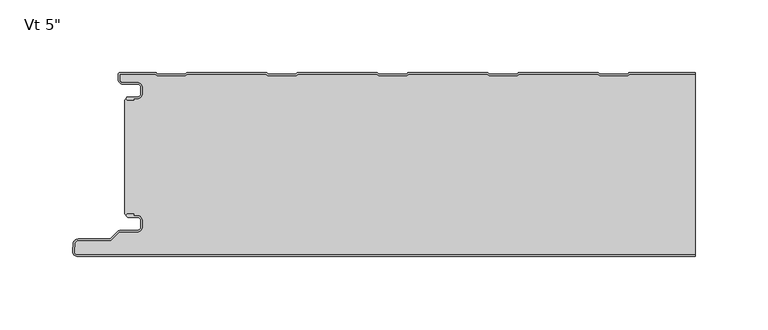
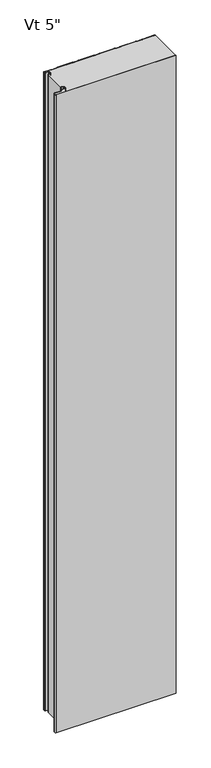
"""IFC4 building model written with IfcOpenShell, lengths in millimetres: plate geometry."""

from ifc_helpers import new_model, si_unit, point, frame, frame_2d, origin, origin_with_axes, place, context, project, spatial, polyline, circle_curve, trimmed, segment, composite_curve, outline, extrude, source, transform, mapped, element, save
from ifc_brep_helpers import plane_surface, cylinder_surface, revolved_surface, advanced_brep


def plate_491611d7(model_context):
    return source(origin(), model_context, "Body", "SolidModel", [
        advanced_brep(
        [(-194.568691, -17.0015405, 2400.0), (-195.5686883, -18.0015437, 2400.0), (-194.568691, -19.0015351, 2400.0), (-190.5684874, -19.0015351, 2400.0), (-190.5684874, -18.0015405, 2400.0), (-187.8762776, -18.0015405, 2400.0), (-184.5762819, -14.7015449, 2400.0), (-184.5762819, -10.3015536, 2400.0), (-187.8762774, -7.0015581, 2400.0), (-198.2962563, -7.0015581, 2400.0), (-200.0662505, -5.2315639, 2400.0), (-200.0662505, -1.0000163, 2400.0), (-175.5659738, -1.0000163, 2400.0), (-174.1803312, -2.2002553, 2400.0), (-154.8051649, -2.2002553, 2400.0), (-153.419532, -1.0000246, 2400.0), (-99.3661166, -1.0000246, 2400.0), (-97.9804836, -2.2002553, 2400.0), (-78.6053173, -2.2002553, 2400.0), (-77.2196844, -1.0000246, 2400.0), (-23.166269, -1.0000246, 2400.0), (-21.780636, -2.2002553, 2400.0), (-2.4054697, -2.2002553, 2400.0), (-1.0198368, -1.0000246, 2400.0), (53.0335786, -1.0000246, 2400.0), (54.4192116, -2.2002553, 2400.0), (73.7943779, -2.2002553, 2400.0), (75.1800108, -1.0000246, 2400.0), (129.2334262, -1.0000246, 2400.0), (130.6190592, -2.2002553, 2400.0), (149.9942255, -2.2002553, 2400.0), (151.3798584, -1.0000246, 2400.0), (196.5999998, -1.0000246, 2400.0), (196.5999998, -2.46e-05, 2400.0), (151.5290096, -2.46e-05, 2400.0), (150.6123927, -0.3418131, 2400.0), (149.6213451, -1.2002553, 2400.0), (130.9919396, -1.2002553, 2400.0), (130.000892, -0.3418131, 2400.0), (129.0842751, -2.46e-05, 2400.0), (75.329162, -2.46e-05, 2400.0), (74.4125451, -0.3418131, 2400.0), (73.4214975, -1.2002553, 2400.0), (54.792092, -1.2002553, 2400.0), (53.8010444, -0.3418131, 2400.0), (52.8844275, -2.46e-05, 2400.0), (-0.8706856, -2.46e-05, 2400.0), (-1.7873025, -0.3418131, 2400.0), (-2.7783501, -1.2002553, 2400.0), (-21.4077556, -1.2002553, 2400.0), (-22.3988032, -0.3418131, 2400.0), (-23.3154201, -2.46e-05, 2400.0), (-77.0705332, -2.46e-05, 2400.0), (-77.9871501, -0.3418131, 2400.0), (-78.9781977, -1.2002553, 2400.0), (-97.6076032, -1.2002553, 2400.0), (-98.5986508, -0.3418131, 2400.0), (-99.5152677, -2.46e-05, 2400.0), (-153.2703808, -2.46e-05, 2400.0), (-154.1869977, -0.3418131, 2400.0), (-155.1780453, -1.2002553, 2400.0), (-173.8074508, -1.2002553, 2400.0), (-174.7984984, -0.3418131, 2400.0), (-175.7152067, -2.46e-05, 2400.0), (-199.6662543, -1.63e-05, 2400.0), (-201.0662505, -1.4000124, 2400.0), (-201.0662505, -5.2315639, 2400.0), (-198.2962563, -8.0015581, 2400.0), (-187.8762774, -8.0015581, 2400.0), (-185.5762819, -10.3015536, 2400.0), (-185.5762819, -14.7015449, 2400.0), (-187.8762776, -17.0015405, 2400.0), (-194.568691, -17.0015405, 0.0), (-187.8762776, -17.0015405, 0.0), (-185.5762819, -14.7015449, 0.0), (-185.5762819, -10.3015536, 0.0), (-187.8762774, -8.0015581, 0.0), (-198.2962563, -8.0015581, 0.0), (-201.0662505, -5.2315639, 0.0), (-201.0662505, -1.4000124, 0.0), (-199.6662543, -1.63e-05, 0.0), (-175.7151153, -1.63e-05, 0.0), (-174.7984984, -0.3418131, 0.0), (-173.8074508, -1.2002553, 0.0), (-155.1780453, -1.2002553, 0.0), (-154.1869977, -0.3418131, 0.0), (-153.2703808, -2.46e-05, 0.0), (-99.5152677, -2.46e-05, 0.0), (-98.5986508, -0.3418131, 0.0), (-97.6076032, -1.2002553, 0.0), (-78.9781977, -1.2002553, 0.0), (-77.9871501, -0.3418131, 0.0), (-77.0705332, -2.46e-05, 0.0), (-23.3154201, -2.46e-05, 0.0), (-22.3988032, -0.3418131, 0.0), (-21.4077556, -1.2002553, 0.0), (-2.7783501, -1.2002553, 0.0), (-1.7873025, -0.3418131, 0.0), (-0.8706856, -2.46e-05, 0.0), (52.8844275, -2.46e-05, 0.0), (53.8010444, -0.3418131, 0.0), (54.792092, -1.2002553, 0.0), (73.4214975, -1.2002553, 0.0), (74.4125451, -0.3418131, 0.0), (75.329162, -2.46e-05, 0.0), (129.0842751, -2.46e-05, 0.0), (130.000892, -0.3418131, 0.0), (130.9919396, -1.2002553, 0.0), (149.6213451, -1.2002553, 0.0), (150.6123927, -0.3418131, 0.0), (151.5290096, -2.46e-05, 0.0), (196.5999998, -2.46e-05, 0.0), (196.5999998, -1.0000246, 0.0), (151.3798584, -1.0000246, 0.0), (149.9942255, -2.2002553, 0.0), (130.6190592, -2.2002553, 0.0), (129.2334262, -1.0000246, 0.0), (75.1800108, -1.0000246, 0.0), (73.7943779, -2.2002553, 0.0), (54.4192116, -2.2002553, 0.0), (53.0335786, -1.0000246, 0.0), (-1.0198368, -1.0000246, 0.0), (-2.4054697, -2.2002553, 0.0), (-21.780636, -2.2002553, 0.0), (-23.166269, -1.0000246, 0.0), (-77.2196844, -1.0000246, 0.0), (-78.6053173, -2.2002553, 0.0), (-97.9804836, -2.2002553, 0.0), (-99.3661166, -1.0000246, 0.0), (-153.419532, -1.0000246, 0.0), (-154.8051649, -2.2002553, 0.0), (-174.1803312, -2.2002553, 0.0), (-175.5659738, -1.0000163, 0.0), (-200.0662505, -1.0000163, 0.0), (-200.0662505, -5.2315639, 0.0), (-198.2962563, -7.0015581, 0.0), (-187.8762774, -7.0015581, 0.0), (-184.5762819, -10.3015536, 0.0), (-184.5762819, -14.7015449, 0.0), (-187.8762776, -18.0015405, 0.0), (-190.5684874, -18.0015405, 0.0), (-190.5684874, -19.0015351, 0.0), (-194.568691, -19.0015351, 0.0), (-195.5686882, -18.0015438, 0.0)],
        [
            (0, 1, circle_curve(frame((-194.568691, -18.0015378, 2400.0), z_axis=(0.0, 0.0, 1.0), x_axis=(1.0, 0.0, 0.0)), 0.9999973)),
            (1, 2, circle_curve(frame((-194.568691, -18.0015379, 2400.0), z_axis=(0.0, 0.0, 1.0), x_axis=(1.0, 0.0, 0.0)), 0.9999972)),
            (2, 3),
            (3, 4),
            (4, 5),
            (5, 6, circle_curve(frame((-187.8762776, -14.7015449, 2400.0), z_axis=(0.0, 0.0, 1.0), x_axis=(1.0, 0.0, 0.0)), 3.2999957)),
            (6, 7),
            (7, 8, circle_curve(frame((-187.8762774, -10.3015536, 2400.0), z_axis=(0.0, 0.0, 1.0), x_axis=(1.0, 0.0, 0.0)), 3.2999955)),
            (8, 9),
            (9, 10, circle_curve(frame((-198.2962563, -5.2315639, 2400.0), z_axis=(0.0, 0.0, -1.0), x_axis=(1.0, 0.0, 0.0)), 1.7699942)),
            (10, 11),
            (11, 12),
            (12, 13),
            (13, 14),
            (14, 15),
            (15, 16),
            (16, 17),
            (17, 18),
            (18, 19),
            (19, 20),
            (20, 21),
            (21, 22),
            (22, 23),
            (23, 24),
            (24, 25),
            (25, 26),
            (26, 27),
            (27, 28),
            (28, 29),
            (29, 30),
            (30, 31),
            (31, 32),
            (32, 33),
            (33, 34),
            (34, 35, circle_curve(frame((151.5290096, -1.4000218, 2400.0), z_axis=(0.0, 0.0, 1.0), x_axis=(1.0, 0.0, 0.0)), 1.3999972)),
            (35, 36),
            (36, 37),
            (37, 38),
            (38, 39, circle_curve(frame((129.0842751, -1.4000218, 2400.0), z_axis=(0.0, 0.0, 1.0), x_axis=(1.0, 0.0, 0.0)), 1.3999972)),
            (39, 40),
            (40, 41, circle_curve(frame((75.329162, -1.4000218, 2400.0), z_axis=(0.0, 0.0, 1.0), x_axis=(1.0, 0.0, 0.0)), 1.3999972)),
            (41, 42),
            (42, 43),
            (43, 44),
            (44, 45, circle_curve(frame((52.8844275, -1.4000218, 2400.0), z_axis=(0.0, 0.0, 1.0), x_axis=(1.0, 0.0, 0.0)), 1.3999972)),
            (45, 46),
            (46, 47, circle_curve(frame((-0.8706856, -1.4000218, 2400.0), z_axis=(0.0, 0.0, 1.0), x_axis=(1.0, 0.0, 0.0)), 1.3999972)),
            (47, 48),
            (48, 49),
            (49, 50),
            (50, 51, circle_curve(frame((-23.3154201, -1.4000218, 2400.0), z_axis=(0.0, 0.0, 1.0), x_axis=(1.0, 0.0, 0.0)), 1.3999972)),
            (51, 52),
            (52, 53, circle_curve(frame((-77.0705332, -1.4000218, 2400.0), z_axis=(0.0, 0.0, 1.0), x_axis=(1.0, 0.0, 0.0)), 1.3999972)),
            (53, 54),
            (54, 55),
            (55, 56),
            (56, 57, circle_curve(frame((-99.5152677, -1.4000218, 2400.0), z_axis=(0.0, 0.0, 1.0), x_axis=(1.0, 0.0, 0.0)), 1.3999972)),
            (57, 58),
            (58, 59, circle_curve(frame((-153.2703808, -1.4000218, 2400.0), z_axis=(0.0, 0.0, 1.0), x_axis=(1.0, 0.0, 0.0)), 1.3999972)),
            (59, 60),
            (60, 61),
            (61, 62),
            (62, 63, circle_curve(frame((-175.7151153, -1.4000218, 2400.0), z_axis=(0.0, 0.0, 1.0), x_axis=(1.0, 0.0, 0.0)), 1.3999972)),
            (63, 64),
            (64, 65, circle_curve(frame((-199.6662543, -1.4000124, 2400.0), z_axis=(0.0, 0.0, 1.0), x_axis=(1.0, 0.0, 0.0)), 1.3999962)),
            (65, 66),
            (66, 67, circle_curve(frame((-198.2962563, -5.2315639, 2400.0), z_axis=(0.0, 0.0, 1.0), x_axis=(1.0, 0.0, 0.0)), 2.7699942)),
            (67, 68),
            (68, 69, circle_curve(frame((-187.8762774, -10.3015536, 2400.0), z_axis=(0.0, 0.0, -1.0), x_axis=(1.0, 0.0, 0.0)), 2.2999955)),
            (69, 70),
            (70, 71, circle_curve(frame((-187.8762776, -14.7015449, 2400.0), z_axis=(0.0, 0.0, -1.0), x_axis=(1.0, 0.0, 0.0)), 2.2999957)),
            (71, 0),
            (72, 73),
            (73, 74, circle_curve(frame((-187.8762776, -14.7015449, 0.0), z_axis=(0.0, 0.0, 1.0), x_axis=(1.0, 0.0, 0.0)), 2.2999957)),
            (74, 75),
            (75, 76, circle_curve(frame((-187.8762774, -10.3015536, 0.0), z_axis=(0.0, 0.0, 1.0), x_axis=(1.0, 0.0, 0.0)), 2.2999955)),
            (76, 77),
            (77, 78, circle_curve(frame((-198.2962563, -5.2315639, 0.0), z_axis=(0.0, 0.0, -1.0), x_axis=(1.0, 0.0, 0.0)), 2.7699942)),
            (78, 79),
            (79, 80, circle_curve(frame((-199.6662543, -1.4000124, 0.0), z_axis=(0.0, 0.0, -1.0), x_axis=(1.0, 0.0, 0.0)), 1.3999962)),
            (80, 81),
            (81, 82, circle_curve(frame((-175.7151153, -1.4000218, 0.0), z_axis=(0.0, 0.0, -1.0), x_axis=(1.0, 0.0, 0.0)), 1.3999972)),
            (82, 83),
            (83, 84),
            (84, 85),
            (85, 86, circle_curve(frame((-153.2703808, -1.4000218, 0.0), z_axis=(0.0, 0.0, -1.0), x_axis=(1.0, 0.0, 0.0)), 1.3999972)),
            (86, 87),
            (87, 88, circle_curve(frame((-99.5152677, -1.4000218, 0.0), z_axis=(0.0, 0.0, -1.0), x_axis=(1.0, 0.0, 0.0)), 1.3999972)),
            (88, 89),
            (89, 90),
            (90, 91),
            (91, 92, circle_curve(frame((-77.0705332, -1.4000218, 0.0), z_axis=(0.0, 0.0, -1.0), x_axis=(1.0, 0.0, 0.0)), 1.3999972)),
            (92, 93),
            (93, 94, circle_curve(frame((-23.3154201, -1.4000218, 0.0), z_axis=(0.0, 0.0, -1.0), x_axis=(1.0, 0.0, 0.0)), 1.3999972)),
            (94, 95),
            (95, 96),
            (96, 97),
            (97, 98, circle_curve(frame((-0.8706856, -1.4000218, 0.0), z_axis=(0.0, 0.0, -1.0), x_axis=(1.0, 0.0, 0.0)), 1.3999972)),
            (98, 99),
            (99, 100, circle_curve(frame((52.8844275, -1.4000218, 0.0), z_axis=(0.0, 0.0, -1.0), x_axis=(1.0, 0.0, 0.0)), 1.3999972)),
            (100, 101),
            (101, 102),
            (102, 103),
            (103, 104, circle_curve(frame((75.329162, -1.4000218, 0.0), z_axis=(0.0, 0.0, -1.0), x_axis=(1.0, 0.0, 0.0)), 1.3999972)),
            (104, 105),
            (105, 106, circle_curve(frame((129.0842751, -1.4000218, 0.0), z_axis=(0.0, 0.0, -1.0), x_axis=(1.0, 0.0, 0.0)), 1.3999972)),
            (106, 107),
            (107, 108),
            (108, 109),
            (109, 110, circle_curve(frame((151.5290096, -1.4000218, 0.0), z_axis=(0.0, 0.0, -1.0), x_axis=(1.0, 0.0, 0.0)), 1.3999972)),
            (110, 111),
            (111, 112),
            (112, 113),
            (113, 114),
            (114, 115),
            (115, 116),
            (116, 117),
            (117, 118),
            (118, 119),
            (119, 120),
            (120, 121),
            (121, 122),
            (122, 123),
            (123, 124),
            (124, 125),
            (125, 126),
            (126, 127),
            (127, 128),
            (128, 129),
            (129, 130),
            (130, 131),
            (131, 132),
            (132, 133),
            (133, 134),
            (134, 135, circle_curve(frame((-198.2962563, -5.2315639, 0.0), z_axis=(0.0, 0.0, 1.0), x_axis=(1.0, 0.0, 0.0)), 1.7699942)),
            (135, 136),
            (136, 137, circle_curve(frame((-187.8762774, -10.3015536, 0.0), z_axis=(0.0, 0.0, -1.0), x_axis=(1.0, 0.0, 0.0)), 3.2999955)),
            (137, 138),
            (138, 139, circle_curve(frame((-187.8762776, -14.7015449, 0.0), z_axis=(0.0, 0.0, -1.0), x_axis=(1.0, 0.0, 0.0)), 3.2999957)),
            (139, 140),
            (140, 141),
            (141, 142),
            (142, 143, circle_curve(frame((-194.568691, -18.0015379, 0.0), z_axis=(0.0, 0.0, -1.0), x_axis=(1.0, 0.0, 0.0)), 0.9999972)),
            (143, 72, circle_curve(frame((-194.568691, -18.0015378, 0.0), z_axis=(0.0, 0.0, -1.0), x_axis=(1.0, 0.0, 0.0)), 0.9999973)),
            (32, 112),
            (111, 33),
            (71, 73),
            (72, 0),
            (70, 74),
            (69, 75),
            (68, 76),
            (67, 77),
            (66, 78),
            (65, 79),
            (64, 80),
            (63, 81),
            (62, 82),
            (61, 83),
            (60, 84),
            (59, 85),
            (58, 86),
            (57, 87),
            (56, 88),
            (55, 89),
            (54, 90),
            (53, 91),
            (52, 92),
            (51, 93),
            (50, 94),
            (49, 95),
            (48, 96),
            (47, 97),
            (46, 98),
            (45, 99),
            (44, 100),
            (43, 101),
            (42, 102),
            (41, 103),
            (40, 104),
            (39, 105),
            (38, 106),
            (37, 107),
            (36, 108),
            (35, 109),
            (34, 110),
            (31, 113),
            (30, 114),
            (29, 115),
            (28, 116),
            (27, 117),
            (26, 118),
            (25, 119),
            (24, 120),
            (23, 121),
            (22, 122),
            (21, 123),
            (20, 124),
            (19, 125),
            (18, 126),
            (17, 127),
            (16, 128),
            (15, 129),
            (14, 130),
            (13, 131),
            (12, 132),
            (11, 133),
            (10, 134),
            (9, 135),
            (8, 136),
            (7, 137),
            (6, 138),
            (5, 139),
            (4, 140),
            (3, 141),
            (2, 142),
            (1, 143),
        ],
        [
            plane_surface(frame((336.8000002, -2.46e-05, 2400.0), z_axis=(0.0, 0.0, 1.0), x_axis=(0.0, 1.0, 0.0))),
            plane_surface(frame((336.8000002, -2.46e-05, 0.0), z_axis=(0.0, 0.0, -1.0), x_axis=(0.0, 1.0, 0.0))),
            plane_surface(frame((196.5999998, -137.0000246, 2400.0), z_axis=(1.0, 0.0, 0.0), x_axis=(0.0, 0.0, -1.0))),
            plane_surface(frame((-194.568691, -17.0015405, 2400.0), z_axis=(0.0, 1.0, 0.0), x_axis=(0.0, 0.0, -1.0))),
            revolved_surface(polyline([(-185.5762819, -14.7015449, 0.0), (-185.5762819, -14.7015449, 2400.0)]), (-187.8762776, -14.7015449, 2400.0), (0.0, 0.0, -1.0)),
            plane_surface(frame((-185.5762819, -14.7015449, 2400.0), z_axis=(-1.0, 0.0, 0.0), x_axis=(0.0, 0.0, -1.0))),
            revolved_surface(polyline([(-185.5762819, -10.3015536, 0.0), (-185.5762819, -10.3015536, 2400.0)]), (-187.8762774, -10.3015536, 2400.0), (0.0, 0.0, -1.0)),
            plane_surface(frame((-187.8762774, -8.0015581, 2400.0), z_axis=(0.0, -1.0, 0.0), x_axis=(0.0, 0.0, -1.0))),
            cylinder_surface(frame((-198.2962563, -5.2315639, 2400.0), z_axis=(0.0, 0.0, 1.0), x_axis=(1.0, 0.0, 0.0)), 2.7699942),
            plane_surface(frame((-201.0662505, -5.2315639, 2400.0), z_axis=(-1.0, 0.0, 0.0), x_axis=(0.0, 0.0, -1.0))),
            cylinder_surface(frame((-199.6662543, -1.4000124, 2400.0), z_axis=(0.0, 0.0, 1.0), x_axis=(1.0, 0.0, 0.0)), 1.3999962),
            plane_surface(frame((-199.6662543, -1.63e-05, 2400.0), z_axis=(0.0, 1.0, 0.0), x_axis=(0.0, 0.0, -1.0))),
            cylinder_surface(frame((-175.7151153, -1.4000218, 2400.0), z_axis=(0.0, 0.0, 1.0), x_axis=(1.0, 0.0, 0.0)), 1.3999972),
            plane_surface(frame((-174.7984984, -0.3418131, 2400.0), z_axis=(0.6547276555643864, 0.7558648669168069, 0.0), x_axis=(0.0, 0.0, -1.0))),
            plane_surface(frame((-164.4927481, -1.2002553, 2400.0), z_axis=(0.0, 1.0, 0.0), x_axis=(0.0, 0.0, -1.0))),
            plane_surface(frame((-155.1780453, -1.2002553, 2400.0), z_axis=(-0.6547276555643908, 0.7558648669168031, 0.0), x_axis=(0.0, 0.0, -1.0))),
            cylinder_surface(frame((-153.2703808, -1.4000218, 2400.0), z_axis=(0.0, 0.0, 1.0), x_axis=(1.0, 0.0, 0.0)), 1.3999972),
            plane_surface(frame((-153.2703808, -2.46e-05, 2400.0), z_axis=(0.0, 1.0, 0.0), x_axis=(0.0, 0.0, -1.0))),
            cylinder_surface(frame((-99.5152677, -1.4000218, 2400.0), z_axis=(0.0, 0.0, 1.0), x_axis=(1.0, 0.0, 0.0)), 1.3999972),
            plane_surface(frame((-98.5986508, -0.3418131, 2400.0), z_axis=(0.6547276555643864, 0.7558648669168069, 0.0), x_axis=(0.0, 0.0, -1.0))),
            plane_surface(frame((-88.2929005, -1.2002553, 2400.0), z_axis=(0.0, 1.0, 0.0), x_axis=(0.0, 0.0, -1.0))),
            plane_surface(frame((-78.9781977, -1.2002553, 2400.0), z_axis=(-0.6547276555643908, 0.7558648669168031, 0.0), x_axis=(0.0, 0.0, -1.0))),
            cylinder_surface(frame((-77.0705332, -1.4000218, 2400.0), z_axis=(0.0, 0.0, 1.0), x_axis=(1.0, 0.0, 0.0)), 1.3999972),
            plane_surface(frame((-77.0705332, -2.46e-05, 2400.0), z_axis=(0.0, 1.0, 0.0), x_axis=(0.0, 0.0, -1.0))),
            cylinder_surface(frame((-23.3154201, -1.4000218, 2400.0), z_axis=(0.0, 0.0, 1.0), x_axis=(1.0, 0.0, 0.0)), 1.3999972),
            plane_surface(frame((-22.3988032, -0.3418131, 2400.0), z_axis=(0.6547276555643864, 0.7558648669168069, 0.0), x_axis=(0.0, 0.0, -1.0))),
            plane_surface(frame((-12.0930529, -1.2002553, 2400.0), z_axis=(0.0, 1.0, 0.0), x_axis=(0.0, 0.0, -1.0))),
            plane_surface(frame((-2.7783501, -1.2002553, 2400.0), z_axis=(-0.6547276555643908, 0.7558648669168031, 0.0), x_axis=(0.0, 0.0, -1.0))),
            cylinder_surface(frame((-0.8706856, -1.4000218, 2400.0), z_axis=(0.0, 0.0, 1.0), x_axis=(1.0, 0.0, 0.0)), 1.3999972),
            plane_surface(frame((-0.8706856, -2.46e-05, 2400.0), z_axis=(0.0, 1.0, 0.0), x_axis=(0.0, 0.0, -1.0))),
            cylinder_surface(frame((52.8844275, -1.4000218, 2400.0), z_axis=(0.0, 0.0, 1.0), x_axis=(1.0, 0.0, 0.0)), 1.3999972),
            plane_surface(frame((53.8010444, -0.3418131, 2400.0), z_axis=(0.6547276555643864, 0.7558648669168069, 0.0), x_axis=(0.0, 0.0, -1.0))),
            plane_surface(frame((64.1067947, -1.2002553, 2400.0), z_axis=(0.0, 1.0, 0.0), x_axis=(0.0, 0.0, -1.0))),
            plane_surface(frame((73.4214975, -1.2002553, 2400.0), z_axis=(-0.6547276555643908, 0.7558648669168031, 0.0), x_axis=(0.0, 0.0, -1.0))),
            cylinder_surface(frame((75.329162, -1.4000218, 2400.0), z_axis=(0.0, 0.0, 1.0), x_axis=(1.0, 0.0, 0.0)), 1.3999972),
            plane_surface(frame((75.329162, -2.46e-05, 2400.0), z_axis=(0.0, 1.0, 0.0), x_axis=(0.0, 0.0, -1.0))),
            cylinder_surface(frame((129.0842751, -1.4000218, 2400.0), z_axis=(0.0, 0.0, 1.0), x_axis=(1.0, 0.0, 0.0)), 1.3999972),
            plane_surface(frame((130.000892, -0.3418131, 2400.0), z_axis=(0.6547276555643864, 0.7558648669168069, 0.0), x_axis=(0.0, 0.0, -1.0))),
            plane_surface(frame((140.3066423, -1.2002553, 2400.0), z_axis=(0.0, 1.0, 0.0), x_axis=(0.0, 0.0, -1.0))),
            plane_surface(frame((149.6213451, -1.2002553, 2400.0), z_axis=(-0.6547276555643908, 0.7558648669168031, 0.0), x_axis=(0.0, 0.0, -1.0))),
            cylinder_surface(frame((151.5290096, -1.4000218, 2400.0), z_axis=(0.0, 0.0, 1.0), x_axis=(1.0, 0.0, 0.0)), 1.3999972),
            plane_surface(frame((151.5290096, -2.46e-05, 2400.0), z_axis=(0.0, 1.0, 0.0), x_axis=(0.0, 0.0, -1.0))),
            plane_surface(frame((205.4332738, -1.0000246, 2400.0), z_axis=(0.0, -1.0, 0.0), x_axis=(0.0, 0.0, -1.0))),
            plane_surface(frame((151.3798584, -1.0000246, 2400.0), z_axis=(0.6547276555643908, -0.7558648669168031, 0.0), x_axis=(0.0, 0.0, -1.0))),
            plane_surface(frame((149.9942255, -2.2002553, 2400.0), z_axis=(0.0, -1.0, 0.0), x_axis=(0.0, 0.0, -1.0))),
            plane_surface(frame((130.6190592, -2.2002553, 2400.0), z_axis=(-0.6547276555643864, -0.7558648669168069, 0.0), x_axis=(0.0, 0.0, -1.0))),
            plane_surface(frame((129.2334262, -1.0000246, 2400.0), z_axis=(0.0, -1.0, 0.0), x_axis=(0.0, 0.0, -1.0))),
            plane_surface(frame((75.1800108, -1.0000246, 2400.0), z_axis=(0.6547276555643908, -0.7558648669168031, 0.0), x_axis=(0.0, 0.0, -1.0))),
            plane_surface(frame((73.7943779, -2.2002553, 2400.0), z_axis=(0.0, -1.0, 0.0), x_axis=(0.0, 0.0, -1.0))),
            plane_surface(frame((54.4192116, -2.2002553, 2400.0), z_axis=(-0.6547276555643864, -0.7558648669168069, 0.0), x_axis=(0.0, 0.0, -1.0))),
            plane_surface(frame((53.0335786, -1.0000246, 2400.0), z_axis=(0.0, -1.0, 0.0), x_axis=(0.0, 0.0, -1.0))),
            plane_surface(frame((-1.0198368, -1.0000246, 2400.0), z_axis=(0.6547276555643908, -0.7558648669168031, 0.0), x_axis=(0.0, 0.0, -1.0))),
            plane_surface(frame((-2.4054697, -2.2002553, 2400.0), z_axis=(0.0, -1.0, 0.0), x_axis=(0.0, 0.0, -1.0))),
            plane_surface(frame((-21.780636, -2.2002553, 2400.0), z_axis=(-0.6547276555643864, -0.7558648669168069, 0.0), x_axis=(0.0, 0.0, -1.0))),
            plane_surface(frame((-23.166269, -1.0000246, 2400.0), z_axis=(0.0, -1.0, 0.0), x_axis=(0.0, 0.0, -1.0))),
            plane_surface(frame((-77.2196844, -1.0000246, 2400.0), z_axis=(0.6547276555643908, -0.7558648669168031, 0.0), x_axis=(0.0, 0.0, -1.0))),
            plane_surface(frame((-78.6053173, -2.2002553, 2400.0), z_axis=(0.0, -1.0, 0.0), x_axis=(0.0, 0.0, -1.0))),
            plane_surface(frame((-97.9804836, -2.2002553, 2400.0), z_axis=(-0.6547276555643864, -0.7558648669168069, 0.0), x_axis=(0.0, 0.0, -1.0))),
            plane_surface(frame((-99.3661166, -1.0000246, 2400.0), z_axis=(0.0, -1.0, 0.0), x_axis=(0.0, 0.0, -1.0))),
            plane_surface(frame((-153.419532, -1.0000246, 2400.0), z_axis=(0.6547276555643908, -0.7558648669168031, 0.0), x_axis=(0.0, 0.0, -1.0))),
            plane_surface(frame((-154.8051649, -2.2002553, 2400.0), z_axis=(0.0, -1.0, 0.0), x_axis=(0.0, 0.0, -1.0))),
            plane_surface(frame((-174.1803312, -2.2002553, 2400.0), z_axis=(-0.6547276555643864, -0.7558648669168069, 0.0), x_axis=(0.0, 0.0, -1.0))),
            plane_surface(frame((-175.5659738, -1.0000163, 2400.0), z_axis=(0.0, -1.0, 0.0), x_axis=(0.0, 0.0, -1.0))),
            plane_surface(frame((-200.0662505, -1.0000163, 2400.0), z_axis=(1.0, 0.0, 0.0), x_axis=(0.0, 0.0, -1.0))),
            revolved_surface(polyline([(-196.5262621, -5.2315639, 0.0), (-196.5262621, -5.2315639, 2400.0)]), (-198.2962563, -5.2315639, 2400.0), (0.0, 0.0, -1.0)),
            plane_surface(frame((-198.2962563, -7.0015581, 2400.0), z_axis=(0.0, 1.0, 0.0), x_axis=(0.0, 0.0, -1.0))),
            cylinder_surface(frame((-187.8762774, -10.3015536, 2400.0), z_axis=(0.0, 0.0, 1.0), x_axis=(1.0, 0.0, 0.0)), 3.2999955),
            plane_surface(frame((-184.5762819, -10.3015536, 2400.0), z_axis=(1.0, 0.0, 0.0), x_axis=(0.0, 0.0, -1.0))),
            cylinder_surface(frame((-187.8762776, -14.7015449, 2400.0), z_axis=(0.0, 0.0, 1.0), x_axis=(1.0, 0.0, 0.0)), 3.2999957),
            plane_surface(frame((-187.8762776, -18.0015405, 2400.0), z_axis=(0.0, -1.0, 0.0), x_axis=(0.0, 0.0, -1.0))),
            plane_surface(frame((-190.5684874, -18.0015405, 2400.0), z_axis=(1.0, 0.0, 0.0), x_axis=(0.0, 0.0, -1.0))),
            plane_surface(frame((-190.5684874, -19.0015351, 2400.0), z_axis=(0.0, -1.0, 0.0), x_axis=(0.0, 0.0, -1.0))),
            cylinder_surface(frame((-194.568691, -18.0015379, 2400.0), z_axis=(0.0, 0.0, 1.0), x_axis=(1.0, 0.0, 0.0)), 0.9999972),
            cylinder_surface(frame((-194.568691, -18.0015378, 2400.0), z_axis=(0.0, 0.0, 1.0), x_axis=(1.0, 0.0, 0.0)), 0.9999973),
        ],
        [
            (0, [[1, 2, 3, 4, 5, 6, 7, 8, 9, 10, 11, 12, 13, 14, 15, 16, 17, 18, 19, 20, 21, 22, 23, 24, 25, 26, 27, 28, 29, 30, 31, 32, 33, 34, 35, 36, 37, 38, 39, 40, 41, 42, 43, 44, 45, 46, 47, 48, 49, 50, 51, 52, 53, 54, 55, 56, 57, 58, 59, 60, 61, 62, 63, 64, 65, 66, 67, 68, 69, 70, 71, 72]]),
            (1, [[73, 74, 75, 76, 77, 78, 79, 80, 81, 82, 83, 84, 85, 86, 87, 88, 89, 90, 91, 92, 93, 94, 95, 96, 97, 98, 99, 100, 101, 102, 103, 104, 105, 106, 107, 108, 109, 110, 111, 112, 113, 114, 115, 116, 117, 118, 119, 120, 121, 122, 123, 124, 125, 126, 127, 128, 129, 130, 131, 132, 133, 134, 135, 136, 137, 138, 139, 140, 141, 142, 143, 144]]),
            (2, [[145, -112, 146, -33]]),
            (3, [[147, -73, 148, -72]]),
            (4, [[149, -74, -147, -71]]),
            (5, [[150, -75, -149, -70]]),
            (6, [[151, -76, -150, -69]]),
            (7, [[152, -77, -151, -68]]),
            (8, [[153, -78, -152, -67]]),
            (9, [[154, -79, -153, -66]]),
            (10, [[155, -80, -154, -65]]),
            (11, [[156, -81, -155, -64]]),
            (12, [[157, -82, -156, -63]]),
            (13, [[158, -83, -157, -62]]),
            (14, [[159, -84, -158, -61]]),
            (15, [[160, -85, -159, -60]]),
            (16, [[161, -86, -160, -59]]),
            (17, [[162, -87, -161, -58]]),
            (18, [[163, -88, -162, -57]]),
            (19, [[164, -89, -163, -56]]),
            (20, [[165, -90, -164, -55]]),
            (21, [[166, -91, -165, -54]]),
            (22, [[167, -92, -166, -53]]),
            (23, [[168, -93, -167, -52]]),
            (24, [[169, -94, -168, -51]]),
            (25, [[170, -95, -169, -50]]),
            (26, [[171, -96, -170, -49]]),
            (27, [[172, -97, -171, -48]]),
            (28, [[173, -98, -172, -47]]),
            (29, [[174, -99, -173, -46]]),
            (30, [[175, -100, -174, -45]]),
            (31, [[176, -101, -175, -44]]),
            (32, [[177, -102, -176, -43]]),
            (33, [[178, -103, -177, -42]]),
            (34, [[179, -104, -178, -41]]),
            (35, [[180, -105, -179, -40]]),
            (36, [[181, -106, -180, -39]]),
            (37, [[182, -107, -181, -38]]),
            (38, [[183, -108, -182, -37]]),
            (39, [[184, -109, -183, -36]]),
            (40, [[185, -110, -184, -35]]),
            (41, [[-34, -146, -111, -185]]),
            (42, [[-113, -145, -32, 186]]),
            (43, [[187, -114, -186, -31]]),
            (44, [[188, -115, -187, -30]]),
            (45, [[189, -116, -188, -29]]),
            (46, [[190, -117, -189, -28]]),
            (47, [[191, -118, -190, -27]]),
            (48, [[192, -119, -191, -26]]),
            (49, [[193, -120, -192, -25]]),
            (50, [[194, -121, -193, -24]]),
            (51, [[195, -122, -194, -23]]),
            (52, [[196, -123, -195, -22]]),
            (53, [[197, -124, -196, -21]]),
            (54, [[198, -125, -197, -20]]),
            (55, [[199, -126, -198, -19]]),
            (56, [[200, -127, -199, -18]]),
            (57, [[201, -128, -200, -17]]),
            (58, [[202, -129, -201, -16]]),
            (59, [[203, -130, -202, -15]]),
            (60, [[204, -131, -203, -14]]),
            (61, [[205, -132, -204, -13]]),
            (62, [[206, -133, -205, -12]]),
            (63, [[207, -134, -206, -11]]),
            (64, [[208, -135, -207, -10]]),
            (65, [[209, -136, -208, -9]]),
            (66, [[210, -137, -209, -8]]),
            (67, [[211, -138, -210, -7]]),
            (68, [[212, -139, -211, -6]]),
            (69, [[213, -140, -212, -5]]),
            (70, [[214, -141, -213, -4]]),
            (71, [[215, -142, -214, -3]]),
            (72, [[216, -143, -215, -2]]),
            (73, [[-148, -144, -216, -1]]),
        ],
    ),
        extrude(outline(composite_curve([segment(polyline([(-232.6087619, -123.1191544), (-232.1690674, -118.0951077)]), True, "CONTINUOUS"), segment(trimmed(circle_curve(frame_2d((-228.5198391, -118.7059089)), 3.6999926), [point((-232.1690674, -118.0951077))], [point((-228.5198391, -115.0059163))], False, "CARTESIAN"), True, "CONTINUOUS"), segment(polyline([(-228.5198391, -115.0059163), (-207.3773995, -115.0059163)]), True, "CONTINUOUS"), segment(trimmed(circle_curve(frame_2d((-207.3773995, -113.7059189)), 1.2999974), [point((-207.3773995, -115.0059163))], [point((-206.4581626, -114.6251558))], True, "CARTESIAN"), True, "CONTINUOUS"), segment(polyline([(-206.4581626, -114.6251558), (-201.6297451, -109.7967384)]), True, "CONTINUOUS"), segment(trimmed(circle_curve(frame_2d((-199.7205606, -111.7059229)), 2.6999946), [point((-201.6297451, -109.7967384))], [point((-199.7205606, -109.0059283))], False, "CARTESIAN"), True, "CONTINUOUS"), segment(polyline([(-199.7205606, -109.0059283), (-187.9096715, -109.0059283)]), True, "CONTINUOUS"), segment(trimmed(circle_curve(frame_2d((-187.9096715, -106.655933)), 2.3499953), [point((-187.9096715, -109.0059283))], [point((-185.5596762, -106.655933))], True, "CARTESIAN"), True, "CONTINUOUS"), segment(polyline([(-185.5596762, -106.655933), (-185.5596762, -102.2559418)]), True, "CONTINUOUS"), segment(trimmed(circle_curve(frame_2d((-187.9096715, -102.2559418)), 2.3499953), [point((-185.5596762, -102.2559418))], [point((-187.9096715, -99.9059465))], True, "CARTESIAN"), True, "CONTINUOUS"), segment(polyline([(-187.9096715, -99.9059465), (-194.4289777, -99.9059465)]), True, "CONTINUOUS"), segment(trimmed(circle_curve(frame_2d((-194.3686906, -98.7074642)), 1.1999976), [point((-194.4289777, -99.9059465))], [point((-195.5683, -98.6769423))], False, "CARTESIAN"), True, "CONTINUOUS"), segment(trimmed(circle_curve(frame_2d((-194.3686906, -98.7074642)), 1.1999976), [point((-195.5683, -98.6769423))], [point((-194.367176, -97.5074676))], False, "CARTESIAN"), True, "CONTINUOUS"), segment(polyline([(-194.367176, -97.5074676), (-190.6087826, -97.5074676), (-190.6087826, -98.9059465), (-187.9096715, -98.9059465)]), True, "CONTINUOUS"), segment(trimmed(circle_curve(frame_2d((-187.9096715, -102.2559418)), 3.3499953), [point((-187.9096715, -98.9059465))], [point((-184.5596762, -102.2559418))], False, "CARTESIAN"), True, "CONTINUOUS"), segment(polyline([(-184.5596762, -102.2559418), (-184.5596762, -106.655933)]), True, "CONTINUOUS"), segment(trimmed(circle_curve(frame_2d((-187.9096715, -106.655933)), 3.3499953), [point((-184.5596762, -106.655933))], [point((-187.9096715, -110.0059283))], False, "CARTESIAN"), True, "CONTINUOUS"), segment(polyline([(-187.9096715, -110.0059283), (-199.7205606, -110.0059283)]), True, "CONTINUOUS"), segment(trimmed(circle_curve(frame_2d((-199.7205606, -111.7059229)), 1.6999946), [point((-199.7205606, -110.0059283))], [point((-200.9226383, -110.5038451))], True, "CARTESIAN"), True, "CONTINUOUS"), segment(polyline([(-200.9226383, -110.5038451), (-206.4247094, -116.0059163), (-228.5198391, -116.0059163)]), True, "CONTINUOUS"), segment(trimmed(circle_curve(frame_2d((-228.5198391, -118.7059089)), 2.6999926), [point((-228.5198391, -116.0059163))], [point((-231.1765707, -118.2245182))], True, "CARTESIAN"), True, "CONTINUOUS"), segment(polyline([(-231.1765707, -118.2245182), (-231.6125697, -123.2063391)]), True, "CONTINUOUS"), segment(trimmed(circle_curve(frame_2d((-229.0521175, -123.4304248)), 2.5702393), [point((-231.6125697, -123.2063391))], [point((-229.1094458, -126.0000246))], True, "CARTESIAN"), True, "CONTINUOUS"), segment(polyline([(-229.1094458, -126.0000246), (196.5999998, -126.0000246), (196.5999998, -127.0000246), (-229.1196851, -127.0000246)]), True, "CONTINUOUS"), segment(trimmed(circle_curve(frame_2d((-229.0521175, -123.4304248)), 3.5702393), [point((-229.1196851, -127.0000246))], [point((-232.6087619, -123.1191544))], False, "CARTESIAN"), True, "CONTINUOUS")], self_intersect=False)), origin_with_axes(), (0.0, 0.0, 1.0), 2400.0),
        advanced_brep(
        [(-195.5683, -98.6708996, 2400.0), (-194.367176, -97.5014249, 2400.0), (-190.6087826, -97.5014249, 2400.0), (-190.6087826, -98.8999038, 2400.0), (-187.9096715, -98.8999038, 2400.0), (-184.5596762, -102.2498991, 2400.0), (-184.5596762, -106.6498903, 2400.0), (-187.9096715, -109.9998856, 2400.0), (-199.7205606, -109.9998856, 2400.0), (-200.9226383, -110.4978025, 2400.0), (-206.4247094, -115.9998736, 2400.0), (-228.5198391, -115.9998736, 2400.0), (-231.1765707, -118.2184756, 2400.0), (-231.6125697, -123.2002964, 2400.0), (-229.0521175, -125.9946214, 2400.0), (196.5999998, -126.0000246, 2400.0), (196.5999998, -1.0000246, 2400.0), (151.3798585, -1.0000246, 2400.0), (149.9942255, -2.2002553, 2400.0), (130.6190592, -2.2002553, 2400.0), (129.2334263, -1.0000246, 2400.0), (75.1800109, -1.0000246, 2400.0), (73.7943779, -2.2002553, 2400.0), (54.4192116, -2.2002553, 2400.0), (53.0335787, -1.0000246, 2400.0), (-1.0198367, -1.0000246, 2400.0), (-2.4054697, -2.2002553, 2400.0), (-21.780636, -2.2002553, 2400.0), (-23.1662689, -1.0000246, 2400.0), (-77.2196843, -1.0000246, 2400.0), (-78.6053173, -2.2002553, 2400.0), (-97.9804836, -2.2002553, 2400.0), (-99.3661165, -1.0000246, 2400.0), (-153.4195319, -1.0000246, 2400.0), (-154.8051649, -2.2002553, 2400.0), (-174.1803312, -2.2002553, 2400.0), (-175.5659738, -1.0000163, 2400.0), (-200.0662504, -1.0000163, 2400.0), (-200.0662504, -5.2315636, 2400.0), (-198.2962562, -7.0015578, 2400.0), (-187.8762777, -7.0015578, 2400.0), (-184.5762818, -10.3015536, 2400.0), (-184.5762818, -14.7015449, 2400.0), (-187.8762775, -18.0015405, 2400.0), (-190.5684873, -18.0015405, 2400.0), (-190.5684873, -19.0015351, 2400.0), (-194.568691, -19.0015351, 2400.0), (-195.5686882, -18.0015438, 2400.0), (-196.5999998, -19.0328554, 2400.0), (-196.5999998, -97.6391997, 2400.0), (-195.5683, -98.6708996, 0.0), (-196.5999998, -97.6391997, 0.0), (-196.5999998, -19.0328554, 0.0), (-195.5686882, -18.0015438, 0.0), (-194.568691, -19.0015351, 0.0), (-190.5684873, -19.0015351, 0.0), (-190.5684873, -18.0015405, 0.0), (-187.8762775, -18.0015405, 0.0), (-184.5762818, -14.7015449, 0.0), (-184.5762818, -10.3015536, 0.0), (-187.8762777, -7.0015578, 0.0), (-198.2962562, -7.0015578, 0.0), (-200.0662504, -5.2315636, 0.0), (-200.0662504, -1.0000163, 0.0), (-175.5659738, -1.0000163, 0.0), (-174.1803312, -2.2002553, 0.0), (-154.8051649, -2.2002553, 0.0), (-153.4195319, -1.0000246, 0.0), (-99.3661165, -1.0000246, 0.0), (-97.9804836, -2.2002553, 0.0), (-78.6053173, -2.2002553, 0.0), (-77.2196843, -1.0000246, 0.0), (-23.1662689, -1.0000246, 0.0), (-21.780636, -2.2002553, 0.0), (-2.4054697, -2.2002553, 0.0), (-1.0198367, -1.0000246, 0.0), (53.0335787, -1.0000246, 0.0), (54.4192116, -2.2002553, 0.0), (73.7943779, -2.2002553, 0.0), (75.1800109, -1.0000246, 0.0), (129.2334263, -1.0000246, 0.0), (130.6190592, -2.2002553, 0.0), (149.9942255, -2.2002553, 0.0), (151.3798585, -1.0000246, 0.0), (196.5999998, -1.0000246, 0.0), (196.5999998, -126.0000246, 0.0), (-229.0521175, -126.0000246, 0.0), (-231.6125697, -123.2002964, 0.0), (-231.1765707, -118.2184756, 0.0), (-228.5198391, -115.9998736, 0.0), (-206.4247094, -115.9998736, 0.0), (-200.9226383, -110.4978025, 0.0), (-199.7205606, -109.9998856, 0.0), (-187.9096715, -109.9998856, 0.0), (-184.5596762, -106.6498903, 0.0), (-184.5596762, -102.2498991, 0.0), (-187.9096715, -98.8999038, 0.0), (-190.6087826, -98.8999038, 0.0), (-190.6087826, -97.5014249, 0.0), (-194.367176, -97.5014249, 0.0)],
        [
            (0, 1, circle_curve(frame((-194.3686906, -98.7014215, 2400.0), z_axis=(0.0, 0.0, -1.0), x_axis=(-1.0, 0.0, 0.0)), 1.1999976)),
            (1, 2),
            (2, 3),
            (3, 4),
            (4, 5, circle_curve(frame((-187.9096715, -102.2498991, 2400.0), z_axis=(0.0, 0.0, -1.0), x_axis=(-1.0, 0.0, 0.0)), 3.3499953)),
            (5, 6),
            (6, 7, circle_curve(frame((-187.9096715, -106.6498903, 2400.0), z_axis=(0.0, 0.0, -1.0), x_axis=(-1.0, 0.0, 0.0)), 3.3499953)),
            (7, 8),
            (8, 9, circle_curve(frame((-199.7205606, -111.6998802, 2400.0), z_axis=(0.0, 0.0, 1.0), x_axis=(-1.0, 0.0, 0.0)), 1.6999946)),
            (9, 10),
            (10, 11),
            (11, 12, circle_curve(frame((-228.5198391, -118.6998662, 2400.0), z_axis=(0.0, 0.0, 1.0), x_axis=(-1.0, 0.0, 0.0)), 2.6999926)),
            (12, 13),
            (13, 14, circle_curve(frame((-229.0521175, -123.4243821, 2400.0), z_axis=(0.0, 0.0, 1.0), x_axis=(-1.0, 0.0, 0.0)), 2.5702393)),
            (14, 15),
            (15, 16),
            (16, 17),
            (17, 18),
            (18, 19),
            (19, 20),
            (20, 21),
            (21, 22),
            (22, 23),
            (23, 24),
            (24, 25),
            (25, 26),
            (26, 27),
            (27, 28),
            (28, 29),
            (29, 30),
            (30, 31),
            (31, 32),
            (32, 33),
            (33, 34),
            (34, 35),
            (35, 36),
            (36, 37),
            (37, 38),
            (38, 39, circle_curve(frame((-198.2962562, -5.2315636, 2400.0), z_axis=(0.0, 0.0, 1.0), x_axis=(-1.0, 0.0, 0.0)), 1.7699942)),
            (39, 40),
            (40, 41, circle_curve(frame((-187.8762777, -10.3015536, 2400.0), z_axis=(0.0, 0.0, -1.0), x_axis=(-1.0, 0.0, 0.0)), 3.2999959)),
            (41, 42),
            (42, 43, circle_curve(frame((-187.8762775, -14.7015449, 2400.0), z_axis=(0.0, 0.0, -1.0), x_axis=(-1.0, 0.0, 0.0)), 3.2999957)),
            (43, 44),
            (44, 45),
            (45, 46),
            (46, 47, circle_curve(frame((-194.568691, -18.0015379, 2400.0), z_axis=(0.0, 0.0, -1.0), x_axis=(-1.0, 0.0, 0.0)), 0.9999972)),
            (47, 48),
            (48, 49),
            (49, 0),
            (50, 51),
            (51, 52),
            (52, 53),
            (53, 54, circle_curve(frame((-194.568691, -18.0015379, 0.0), z_axis=(0.0, 0.0, 1.0), x_axis=(-1.0, 0.0, 0.0)), 0.9999972)),
            (54, 55),
            (55, 56),
            (56, 57),
            (57, 58, circle_curve(frame((-187.8762775, -14.7015449, 0.0), z_axis=(0.0, 0.0, 1.0), x_axis=(-1.0, 0.0, 0.0)), 3.2999957)),
            (58, 59),
            (59, 60, circle_curve(frame((-187.8762777, -10.3015536, 0.0), z_axis=(0.0, 0.0, 1.0), x_axis=(-1.0, 0.0, 0.0)), 3.2999959)),
            (60, 61),
            (61, 62, circle_curve(frame((-198.2962562, -5.2315636, 0.0), z_axis=(0.0, 0.0, -1.0), x_axis=(-1.0, 0.0, 0.0)), 1.7699942)),
            (62, 63),
            (63, 64),
            (64, 65),
            (65, 66),
            (66, 67),
            (67, 68),
            (68, 69),
            (69, 70),
            (70, 71),
            (71, 72),
            (72, 73),
            (73, 74),
            (74, 75),
            (75, 76),
            (76, 77),
            (77, 78),
            (78, 79),
            (79, 80),
            (80, 81),
            (81, 82),
            (82, 83),
            (83, 84),
            (84, 85),
            (85, 86),
            (86, 87, circle_curve(frame((-229.0521175, -123.4243821, 0.0), z_axis=(0.0, 0.0, -1.0), x_axis=(-1.0, 0.0, 0.0)), 2.5702393)),
            (87, 88),
            (88, 89, circle_curve(frame((-228.5198391, -118.6998662, 0.0), z_axis=(0.0, 0.0, -1.0), x_axis=(-1.0, 0.0, 0.0)), 2.6999926)),
            (89, 90),
            (90, 91),
            (91, 92, circle_curve(frame((-199.7205606, -111.6998802, 0.0), z_axis=(0.0, 0.0, -1.0), x_axis=(-1.0, 0.0, 0.0)), 1.6999946)),
            (92, 93),
            (93, 94, circle_curve(frame((-187.9096715, -106.6498903, 0.0), z_axis=(0.0, 0.0, 1.0), x_axis=(-1.0, 0.0, 0.0)), 3.3499953)),
            (94, 95),
            (95, 96, circle_curve(frame((-187.9096715, -102.2498991, 0.0), z_axis=(0.0, 0.0, 1.0), x_axis=(-1.0, 0.0, 0.0)), 3.3499953)),
            (96, 97),
            (97, 98),
            (98, 99),
            (99, 50, circle_curve(frame((-194.3686906, -98.7014215, 0.0), z_axis=(0.0, 0.0, 1.0), x_axis=(-1.0, 0.0, 0.0)), 1.1999976)),
            (15, 85),
            (84, 16),
            (49, 51),
            (50, 0),
            (48, 52),
            (14, 86),
            (13, 87),
            (12, 88),
            (11, 89),
            (10, 90),
            (9, 91),
            (8, 92),
            (7, 93),
            (6, 94),
            (5, 95),
            (4, 96),
            (3, 97),
            (2, 98),
            (1, 99),
            (47, 53),
            (46, 54),
            (45, 55),
            (44, 56),
            (43, 57),
            (42, 58),
            (41, 59),
            (40, 60),
            (39, 61),
            (38, 62),
            (37, 63),
            (36, 64),
            (35, 65),
            (34, 66),
            (33, 67),
            (32, 68),
            (31, 69),
            (30, 70),
            (29, 71),
            (28, 72),
            (27, 73),
            (26, 74),
            (25, 75),
            (24, 76),
            (23, 77),
            (22, 78),
            (21, 79),
            (20, 80),
            (19, 81),
            (18, 82),
            (17, 83),
        ],
        [
            plane_surface(frame((336.8000002, -126.0000246, 2400.0), z_axis=(0.0, 0.0, 1.0), x_axis=(0.0, -1.0, 0.0))),
            plane_surface(frame((336.8000002, -126.0000246, 0.0), z_axis=(0.0, 0.0, -1.0), x_axis=(0.0, -1.0, 0.0))),
            plane_surface(frame((196.5999998, -137.0000246, 2400.0), z_axis=(1.0, 0.0, 0.0), x_axis=(0.0, 0.0, -1.0))),
            plane_surface(frame((-195.5683, -98.6708996, 2400.0), z_axis=(-0.7071067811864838, -0.7071067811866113, 0.0), x_axis=(0.0, 0.0, -1.0))),
            plane_surface(frame((-196.5999998, -97.6391997, 2400.0), z_axis=(-1.0, 0.0, 0.0), x_axis=(0.0, 0.0, -1.0))),
            plane_surface(frame((821.7156235, -126.0000246, 2400.0), z_axis=(0.0, -1.0, 0.0), x_axis=(0.0, 0.0, -1.0))),
            cylinder_surface(frame((-229.0521175, -123.4243821, 2400.0), z_axis=(0.0, 0.0, 1.0), x_axis=(-1.0, 0.0, 0.0)), 2.5702393),
            plane_surface(frame((-231.6125697, -123.2002964, 2400.0), z_axis=(-0.9961921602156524, 0.08718474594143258, 0.0), x_axis=(0.0, 0.0, -1.0))),
            cylinder_surface(frame((-228.5198391, -118.6998662, 2400.0), z_axis=(0.0, 0.0, 1.0), x_axis=(-1.0, 0.0, 0.0)), 2.6999926),
            plane_surface(frame((-228.5198391, -115.9998736, 2400.0), z_axis=(0.0, 1.0, 0.0), x_axis=(0.0, 0.0, -1.0))),
            plane_surface(frame((-206.4247094, -115.9998736, 2400.0), z_axis=(-0.7071067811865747, 0.7071067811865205, 0.0), x_axis=(0.0, 0.0, -1.0))),
            cylinder_surface(frame((-199.7205606, -111.6998802, 2400.0), z_axis=(0.0, 0.0, 1.0), x_axis=(-1.0, 0.0, 0.0)), 1.6999946),
            plane_surface(frame((-199.7205606, -109.9998856, 2400.0), z_axis=(0.0, 1.0, 0.0), x_axis=(0.0, 0.0, -1.0))),
            revolved_surface(polyline([(-191.2596668, -106.6498903, 0.0), (-191.2596668, -106.6498903, 2400.0)]), (-187.9096715, -106.6498903, 2400.0), (0.0, 0.0, -1.0)),
            plane_surface(frame((-184.5596762, -106.6498903, 2400.0), z_axis=(-1.0, 0.0, 0.0), x_axis=(0.0, 0.0, -1.0))),
            revolved_surface(polyline([(-191.2596668, -102.2498991, 0.0), (-191.2596668, -102.2498991, 2400.0)]), (-187.9096715, -102.2498991, 2400.0), (0.0, 0.0, -1.0)),
            plane_surface(frame((-187.9096715, -98.8999038, 2400.0), z_axis=(0.0, -1.0, 0.0), x_axis=(0.0, 0.0, -1.0))),
            plane_surface(frame((-190.6087826, -98.8999038, 2400.0), z_axis=(-1.0, 0.0, 0.0), x_axis=(0.0, 0.0, -1.0))),
            plane_surface(frame((-190.6087826, -97.5014249, 2400.0), z_axis=(0.0, -1.0, 0.0), x_axis=(0.0, 0.0, -1.0))),
            revolved_surface(polyline([(-195.5686882, -98.7014215, 0.0), (-195.5686882, -98.7014215, 2400.0)]), (-194.3686906, -98.7014215, 2400.0), (0.0, 0.0, -1.0)),
            plane_surface(frame((-196.5999998, -19.0328554, 2400.0), z_axis=(-0.7071067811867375, 0.7071067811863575, 0.0), x_axis=(0.0, 0.0, -1.0))),
            revolved_surface(polyline([(-195.5686882, -18.0015379, 0.0), (-195.5686882, -18.0015379, 2400.0)]), (-194.568691, -18.0015379, 2400.0), (0.0, 0.0, -1.0)),
            plane_surface(frame((-194.568691, -19.0015351, 2400.0), z_axis=(0.0, 1.0, 0.0), x_axis=(0.0, 0.0, -1.0))),
            plane_surface(frame((-190.5684873, -19.0015351, 2400.0), z_axis=(-1.0, 0.0, 0.0), x_axis=(0.0, 0.0, -1.0))),
            plane_surface(frame((-190.5684873, -18.0015405, 2400.0), z_axis=(0.0, 1.0, 0.0), x_axis=(0.0, 0.0, -1.0))),
            revolved_surface(polyline([(-191.1762732, -14.7015449, 0.0), (-191.1762732, -14.7015449, 2400.0)]), (-187.8762775, -14.7015449, 2400.0), (0.0, 0.0, -1.0)),
            plane_surface(frame((-184.5762818, -14.7015449, 2400.0), z_axis=(-1.0, 0.0, 0.0), x_axis=(0.0, 0.0, -1.0))),
            revolved_surface(polyline([(-191.1762736, -10.3015536, 0.0), (-191.1762736, -10.3015536, 2400.0)]), (-187.8762777, -10.3015536, 2400.0), (0.0, 0.0, -1.0)),
            plane_surface(frame((-187.8762777, -7.0015578, 2400.0), z_axis=(0.0, -1.0, 0.0), x_axis=(0.0, 0.0, -1.0))),
            cylinder_surface(frame((-198.2962562, -5.2315636, 2400.0), z_axis=(0.0, 0.0, 1.0), x_axis=(-1.0, 0.0, 0.0)), 1.7699942),
            plane_surface(frame((-200.0662504, -5.2315636, 2400.0), z_axis=(-1.0, 0.0, 0.0), x_axis=(0.0, 0.0, -1.0))),
            plane_surface(frame((-200.0662504, -1.0000163, 2400.0), z_axis=(0.0, 1.0, 0.0), x_axis=(0.0, 0.0, -1.0))),
            plane_surface(frame((-175.5659738, -1.0000163, 2400.0), z_axis=(0.6547276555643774, 0.7558648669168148, 0.0), x_axis=(0.0, 0.0, -1.0))),
            plane_surface(frame((-174.1803312, -2.2002553, 2400.0), z_axis=(0.0, 1.0, 0.0), x_axis=(0.0, 0.0, -1.0))),
            plane_surface(frame((-154.8051649, -2.2002553, 2400.0), z_axis=(-0.6547276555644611, 0.7558648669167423, 0.0), x_axis=(0.0, 0.0, -1.0))),
            plane_surface(frame((-153.4195319, -1.0000246, 2400.0), z_axis=(0.0, 1.0, 0.0), x_axis=(0.0, 0.0, -1.0))),
            plane_surface(frame((-99.3661165, -1.0000246, 2400.0), z_axis=(0.6547276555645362, 0.7558648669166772, 0.0), x_axis=(0.0, 0.0, -1.0))),
            plane_surface(frame((-97.9804836, -2.2002553, 2400.0), z_axis=(0.0, 1.0, 0.0), x_axis=(0.0, 0.0, -1.0))),
            plane_surface(frame((-78.6053173, -2.2002553, 2400.0), z_axis=(-0.6547276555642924, 0.7558648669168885, 0.0), x_axis=(0.0, 0.0, -1.0))),
            plane_surface(frame((-77.2196843, -1.0000246, 2400.0), z_axis=(0.0, 1.0, 0.0), x_axis=(0.0, 0.0, -1.0))),
            plane_surface(frame((-23.1662689, -1.0000246, 2400.0), z_axis=(0.654727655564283, 0.7558648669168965, 0.0), x_axis=(0.0, 0.0, -1.0))),
            plane_surface(frame((-21.780636, -2.2002553, 2400.0), z_axis=(0.0, 1.0, 0.0), x_axis=(0.0, 0.0, -1.0))),
            plane_surface(frame((-2.4054697, -2.2002553, 2400.0), z_axis=(-0.6547276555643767, 0.7558648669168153, 0.0), x_axis=(0.0, 0.0, -1.0))),
            plane_surface(frame((-1.0198367, -1.0000246, 2400.0), z_axis=(0.0, 1.0, 0.0), x_axis=(0.0, 0.0, -1.0))),
            plane_surface(frame((53.0335787, -1.0000246, 2400.0), z_axis=(0.6547276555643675, 0.7558648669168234, 0.0), x_axis=(0.0, 0.0, -1.0))),
            plane_surface(frame((54.4192116, -2.2002553, 2400.0), z_axis=(0.0, 1.0, 0.0), x_axis=(0.0, 0.0, -1.0))),
            plane_surface(frame((73.7943779, -2.2002553, 2400.0), z_axis=(-0.6547276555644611, 0.7558648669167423, 0.0), x_axis=(0.0, 0.0, -1.0))),
            plane_surface(frame((75.1800109, -1.0000246, 2400.0), z_axis=(0.0, 1.0, 0.0), x_axis=(0.0, 0.0, -1.0))),
            plane_surface(frame((129.2334263, -1.0000246, 2400.0), z_axis=(0.6547276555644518, 0.7558648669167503, 0.0), x_axis=(0.0, 0.0, -1.0))),
            plane_surface(frame((130.6190592, -2.2002553, 2400.0), z_axis=(0.0, 1.0, 0.0), x_axis=(0.0, 0.0, -1.0))),
            plane_surface(frame((149.9942255, -2.2002553, 2400.0), z_axis=(-0.6547276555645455, 0.7558648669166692, 0.0), x_axis=(0.0, 0.0, -1.0))),
            plane_surface(frame((151.3798585, -1.0000246, 2400.0), z_axis=(0.0, 1.0, 0.0), x_axis=(0.0, 0.0, -1.0))),
        ],
        [
            (0, [[1, 2, 3, 4, 5, 6, 7, 8, 9, 10, 11, 12, 13, 14, 15, 16, 17, 18, 19, 20, 21, 22, 23, 24, 25, 26, 27, 28, 29, 30, 31, 32, 33, 34, 35, 36, 37, 38, 39, 40, 41, 42, 43, 44, 45, 46, 47, 48, 49, 50]]),
            (1, [[51, 52, 53, 54, 55, 56, 57, 58, 59, 60, 61, 62, 63, 64, 65, 66, 67, 68, 69, 70, 71, 72, 73, 74, 75, 76, 77, 78, 79, 80, 81, 82, 83, 84, 85, 86, 87, 88, 89, 90, 91, 92, 93, 94, 95, 96, 97, 98, 99, 100]]),
            (2, [[101, -85, 102, -16]]),
            (3, [[103, -51, 104, -50]]),
            (4, [[-49, 105, -52, -103]]),
            (5, [[-86, -101, -15, 106]]),
            (6, [[107, -87, -106, -14]]),
            (7, [[108, -88, -107, -13]]),
            (8, [[109, -89, -108, -12]]),
            (9, [[110, -90, -109, -11]]),
            (10, [[111, -91, -110, -10]]),
            (11, [[112, -92, -111, -9]]),
            (12, [[113, -93, -112, -8]]),
            (13, [[114, -94, -113, -7]]),
            (14, [[115, -95, -114, -6]]),
            (15, [[116, -96, -115, -5]]),
            (16, [[117, -97, -116, -4]]),
            (17, [[118, -98, -117, -3]]),
            (18, [[119, -99, -118, -2]]),
            (19, [[-104, -100, -119, -1]]),
            (20, [[120, -53, -105, -48]]),
            (21, [[121, -54, -120, -47]]),
            (22, [[122, -55, -121, -46]]),
            (23, [[123, -56, -122, -45]]),
            (24, [[124, -57, -123, -44]]),
            (25, [[125, -58, -124, -43]]),
            (26, [[126, -59, -125, -42]]),
            (27, [[127, -60, -126, -41]]),
            (28, [[128, -61, -127, -40]]),
            (29, [[129, -62, -128, -39]]),
            (30, [[130, -63, -129, -38]]),
            (31, [[131, -64, -130, -37]]),
            (32, [[132, -65, -131, -36]]),
            (33, [[133, -66, -132, -35]]),
            (34, [[134, -67, -133, -34]]),
            (35, [[135, -68, -134, -33]]),
            (36, [[136, -69, -135, -32]]),
            (37, [[137, -70, -136, -31]]),
            (38, [[138, -71, -137, -30]]),
            (39, [[139, -72, -138, -29]]),
            (40, [[140, -73, -139, -28]]),
            (41, [[141, -74, -140, -27]]),
            (42, [[142, -75, -141, -26]]),
            (43, [[143, -76, -142, -25]]),
            (44, [[144, -77, -143, -24]]),
            (45, [[145, -78, -144, -23]]),
            (46, [[146, -79, -145, -22]]),
            (47, [[147, -80, -146, -21]]),
            (48, [[148, -81, -147, -20]]),
            (49, [[149, -82, -148, -19]]),
            (50, [[150, -83, -149, -18]]),
            (51, [[-17, -102, -84, -150]]),
        ],
    ),
    ])


if __name__ == "__main__":
    model = new_model("IFC4")
    model_context = context("Model", 3, world=origin())
    ifc_project = project(units=[si_unit("LENGTHUNIT", "METRE", prefix="MILLI")], contexts=[model_context])
    site = spatial("IfcSite", under=ifc_project)
    building = spatial("IfcBuilding", under=site)
    placement = place(None, origin())
    plate_shape = plate_491611d7(model_context)
    element("IfcPlate", 1, ObjectType="KIP-42-Karrier-KP-R19-CP-Vt-FL3-8in_SL : Vt 5\"", at=placement, inside=building, context=model_context, shape_type="MappedRepresentation", body=[
        mapped(plate_shape, transform((0.0, 0.0, 0.0), x_axis=(1.0, 0.0, 0.0), y_axis=(0.0, 1.0, 0.0), z_axis=(0.0, 0.0, 1.0))),
    ])
    save(model, "model.ifc")
